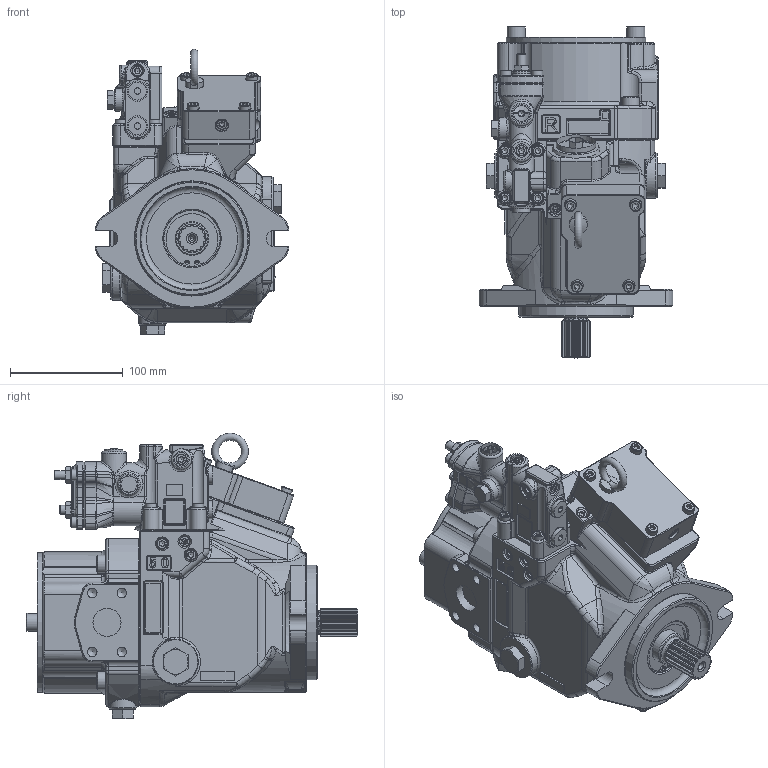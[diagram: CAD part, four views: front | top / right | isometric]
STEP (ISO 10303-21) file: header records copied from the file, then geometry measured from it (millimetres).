
FILE_DESCRIPTION(/* description */ (''),/* implementation_level */ '2;1');
FILE_NAME(/* name */ 'K3VLS50-1NRBBH-L1A00.stp',/* time_stamp */ '2025-09-23T14:07:44+01:00',/* author */ ('jhatcher'),/* organization */ (''),/* preprocessor_version */ 'ST-DEVELOPER v20',/* originating_system */ 'Autodesk Inventor 2024',/* authorisation */ '');
FILE_SCHEMA (('AUTOMOTIVE_DESIGN { 1 0 10303 214 3 1 1 }'));
Products named in the file (1): K3VLS50-1NRBBH-L1A00
Bounding box: 172 x 295 x 253.72 mm (x, y, z)
Volume: 4618364.7 mm3; surface area: 247943.9 mm2
Topology: 1 solids, 1 shells, 3227 faces, 8201 edges, 5049 vertices
Faces by surface type: plane 1266, cylinder 839, bspline 583, cone 369, torus 157, sphere 13
Full cylindrical faces by diameter (mm): 2.5 x2, 3.15 x1, 4 x2, 8 x2, 8.376 x8, 9.4 x13, 10 x12, 10.106 x4, 11 x12, 12 x13, 16 x9, 17.5 x4, 18 x4, 20 x1, 21 x1, 22 x1, 25 x2, 30 x1, 35 x1, 38 x1, 50 x1, 53 x1, 101.6 x1, 124 x1
Entity records: 114446 total; most frequent: CARTESIAN_POINT 40494, ORIENTED_EDGE 16174, DIRECTION 14176, EDGE_CURVE 8087, AXIS2_PLACEMENT_3D 5167, VERTEX_POINT 5047, LINE 3842, VECTOR 3842
